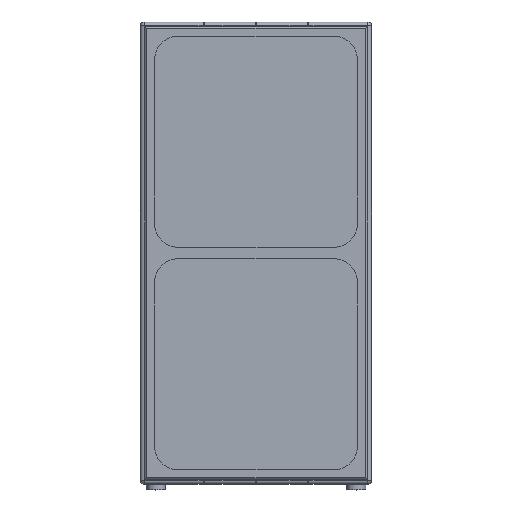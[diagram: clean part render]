
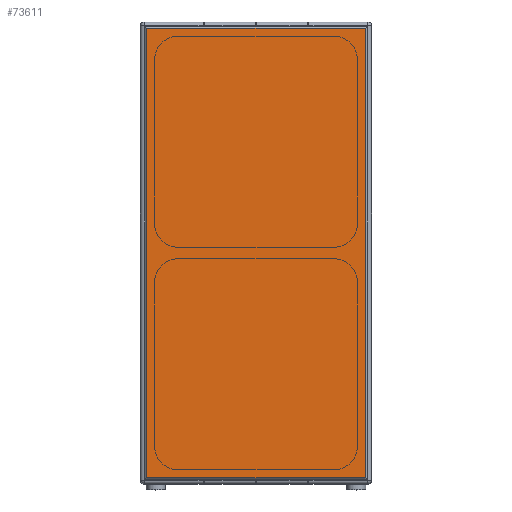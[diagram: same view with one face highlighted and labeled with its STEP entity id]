
A CAD part, top view. The second image highlights one B-rep face of the part: STEP entity #73611.
In plain terms, the highlighted planar face has unit normal (0, 0, 1).
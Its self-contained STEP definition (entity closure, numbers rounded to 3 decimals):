
#1544=ELLIPSE('',#78529,7.275,4.2);
#1547=ELLIPSE('',#78535,7.275,4.2);
#1548=ELLIPSE('',#78536,7.275,4.2);
#1549=ELLIPSE('',#78537,7.275,4.2);
#5501=PLANE('',#78534);
#8507=FACE_OUTER_BOUND('',#13189,.T.);
#13189=EDGE_LOOP('',(#51049,#51050,#51051,#51052,#51053,#51054,#51055,#51056));
#18103=LINE('',#105437,#23756);
#18104=LINE('',#105442,#23757);
#18105=LINE('',#105446,#23758);
#18106=LINE('',#105449,#23759);
#23756=VECTOR('',#85975,1162.226);
#23757=VECTOR('',#85980,562.226);
#23758=VECTOR('',#85983,562.226);
#23759=VECTOR('',#85986,1162.226);
#32220=VERTEX_POINT('',#105419);
#32221=VERTEX_POINT('',#105421);
#32226=VERTEX_POINT('',#105435);
#32227=VERTEX_POINT('',#105439);
#32228=VERTEX_POINT('',#105440);
#32229=VERTEX_POINT('',#105443);
#32230=VERTEX_POINT('',#105445);
#32231=VERTEX_POINT('',#105447);
#39428=EDGE_CURVE('',#32221,#32220,#1544,.T.);
#39436=EDGE_CURVE('',#32220,#32226,#18103,.T.);
#39437=EDGE_CURVE('',#32227,#32228,#1547,.T.);
#39438=EDGE_CURVE('',#32228,#32221,#18104,.T.);
#39439=EDGE_CURVE('',#32226,#32229,#1548,.T.);
#39440=EDGE_CURVE('',#32229,#32230,#18105,.T.);
#39441=EDGE_CURVE('',#32230,#32231,#1549,.T.);
#39442=EDGE_CURVE('',#32231,#32227,#18106,.T.);
#51049=ORIENTED_EDGE('',*,*,#39437,.T.);
#51050=ORIENTED_EDGE('',*,*,#39438,.T.);
#51051=ORIENTED_EDGE('',*,*,#39428,.T.);
#51052=ORIENTED_EDGE('',*,*,#39436,.T.);
#51053=ORIENTED_EDGE('',*,*,#39439,.T.);
#51054=ORIENTED_EDGE('',*,*,#39440,.T.);
#51055=ORIENTED_EDGE('',*,*,#39441,.T.);
#51056=ORIENTED_EDGE('',*,*,#39442,.T.);
#73611=ADVANCED_FACE('',(#8507),#5501,.F.);
#78529=AXIS2_PLACEMENT_3D('',#105422,#85960,#85961);
#78534=AXIS2_PLACEMENT_3D('',#105438,#85976,#85977);
#78535=AXIS2_PLACEMENT_3D('',#105441,#85978,#85979);
#78536=AXIS2_PLACEMENT_3D('',#105444,#85981,#85982);
#78537=AXIS2_PLACEMENT_3D('',#105448,#85984,#85985);
#85960=DIRECTION('center_axis',(0.,0.,1.));
#85961=DIRECTION('ref_axis',(-0.707,-0.707,0.));
#85975=DIRECTION('',(1.,0.,0.));
#85976=DIRECTION('center_axis',(0.,0.,-1.));
#85977=DIRECTION('ref_axis',(0.,-1.,0.));
#85978=DIRECTION('center_axis',(0.,0.,1.));
#85979=DIRECTION('ref_axis',(-0.707,0.707,0.));
#85980=DIRECTION('',(0.,-1.,0.));
#85981=DIRECTION('center_axis',(0.,0.,1.));
#85982=DIRECTION('ref_axis',(0.707,-0.707,0.));
#85983=DIRECTION('',(0.,1.,0.));
#85984=DIRECTION('center_axis',(0.,0.,1.));
#85985=DIRECTION('ref_axis',(0.707,0.707,0.));
#85986=DIRECTION('',(-1.,0.,0.));
#105419=CARTESIAN_POINT('',(-581.113,-284.083,283.7));
#105421=CARTESIAN_POINT('',(-584.083,-281.113,283.7));
#105422=CARTESIAN_POINT('Origin',(-578.143,-278.143,283.7));
#105435=CARTESIAN_POINT('',(581.113,-284.083,283.7));
#105437=CARTESIAN_POINT('',(-581.113,-284.083,283.7));
#105438=CARTESIAN_POINT('Origin',(0.,0.,283.7));
#105439=CARTESIAN_POINT('',(-581.113,284.083,283.7));
#105440=CARTESIAN_POINT('',(-584.083,281.113,283.7));
#105441=CARTESIAN_POINT('Origin',(-578.143,278.143,283.7));
#105442=CARTESIAN_POINT('',(-584.083,281.113,283.7));
#105443=CARTESIAN_POINT('',(584.083,-281.113,283.7));
#105444=CARTESIAN_POINT('Origin',(578.143,-278.143,283.7));
#105445=CARTESIAN_POINT('',(584.083,281.113,283.7));
#105446=CARTESIAN_POINT('',(584.083,-281.113,283.7));
#105447=CARTESIAN_POINT('',(581.113,284.083,283.7));
#105448=CARTESIAN_POINT('Origin',(578.143,278.143,283.7));
#105449=CARTESIAN_POINT('',(581.113,284.083,283.7));
